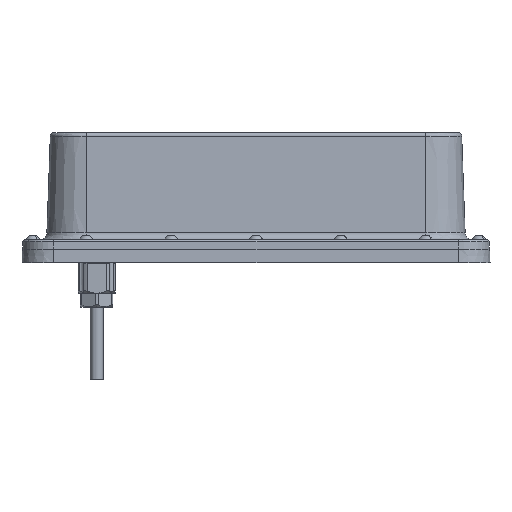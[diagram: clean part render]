
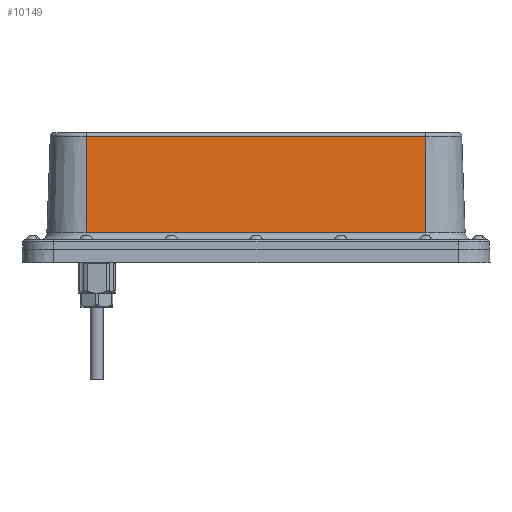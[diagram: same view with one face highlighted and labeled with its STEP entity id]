
A CAD part, front view. The second image highlights one B-rep face of the part: STEP entity #10149.
In plain terms, the highlighted planar face has unit normal (0, -0.999, 0.035).
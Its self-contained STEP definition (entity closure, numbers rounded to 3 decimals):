
#696 = DIRECTION ( 'NONE',  ( 0., -0.035, -0.999 ) ) ;
#1017 = DIRECTION ( 'NONE',  ( 0., 0.035, 0.999 ) ) ;
#2618 = DIRECTION ( 'NONE',  ( 0., -0.035, -0.999 ) ) ;
#3116 = VERTEX_POINT ( 'NONE', #4913 ) ;
#3335 = LINE ( 'NONE', #5888, #21062 ) ;
#4913 = CARTESIAN_POINT ( 'NONE',  ( 537.314, 852.416, 1300.243 ) ) ;
#5147 = CARTESIAN_POINT ( 'NONE',  ( 610.314, 853.87, 1341.9 ) ) ;
#5360 = CARTESIAN_POINT ( 'NONE',  ( 683.314, 852.175, 1293.348 ) ) ;
#5525 = EDGE_CURVE ( 'NONE', #19220, #14769, #25884, .T. ) ;
#5888 = CARTESIAN_POINT ( 'NONE',  ( 610.314, 852.416, 1300.243 ) ) ;
#7792 = EDGE_CURVE ( 'NONE', #3116, #19220, #3335, .T. ) ;
#8944 = ORIENTED_EDGE ( 'NONE', *, *, #17087, .T. ) ;
#9344 = LINE ( 'NONE', #5147, #22897 ) ;
#9464 = CARTESIAN_POINT ( 'NONE',  ( 683.314, 853.87, 1341.9 ) ) ;
#10149 = ADVANCED_FACE ( 'NONE', ( #12378 ), #18938, .T. ) ;
#11565 = ORIENTED_EDGE ( 'NONE', *, *, #13383, .T. ) ;
#11712 = VECTOR ( 'NONE', #2618, 1000. ) ;
#12265 = ORIENTED_EDGE ( 'NONE', *, *, #5525, .T. ) ;
#12378 = FACE_OUTER_BOUND ( 'NONE', #21127, .T. ) ;
#13383 = EDGE_CURVE ( 'NONE', #14769, #29493, #9344, .T. ) ;
#13691 = LINE ( 'NONE', #29580, #11712 ) ;
#14361 = AXIS2_PLACEMENT_3D ( 'NONE', #21058, #15165, #696 ) ;
#14479 = VECTOR ( 'NONE', #1017, 1000. ) ;
#14769 = VERTEX_POINT ( 'NONE', #9464 ) ;
#15165 = DIRECTION ( 'NONE',  ( 0., -0.999, 0.035 ) ) ;
#17087 = EDGE_CURVE ( 'NONE', #29493, #3116, #13691, .T. ) ;
#17851 = CARTESIAN_POINT ( 'NONE',  ( 683.314, 852.416, 1300.243 ) ) ;
#18938 = PLANE ( 'NONE',  #14361 ) ;
#19220 = VERTEX_POINT ( 'NONE', #17851 ) ;
#20816 = ORIENTED_EDGE ( 'NONE', *, *, #7792, .T. ) ;
#21009 = DIRECTION ( 'NONE',  ( -1., 0., 0. ) ) ;
#21058 = CARTESIAN_POINT ( 'NONE',  ( 610.314, 852.175, 1293.348 ) ) ;
#21062 = VECTOR ( 'NONE', #28353, 1000. ) ;
#21127 = EDGE_LOOP ( 'NONE', ( #12265, #11565, #8944, #20816 ) ) ;
#21359 = CARTESIAN_POINT ( 'NONE',  ( 537.314, 853.87, 1341.9 ) ) ;
#22897 = VECTOR ( 'NONE', #21009, 1000. ) ;
#25884 = LINE ( 'NONE', #5360, #14479 ) ;
#28353 = DIRECTION ( 'NONE',  ( 1., 0., 0. ) ) ;
#29493 = VERTEX_POINT ( 'NONE', #21359 ) ;
#29580 = CARTESIAN_POINT ( 'NONE',  ( 537.314, 852.175, 1293.348 ) ) ;
